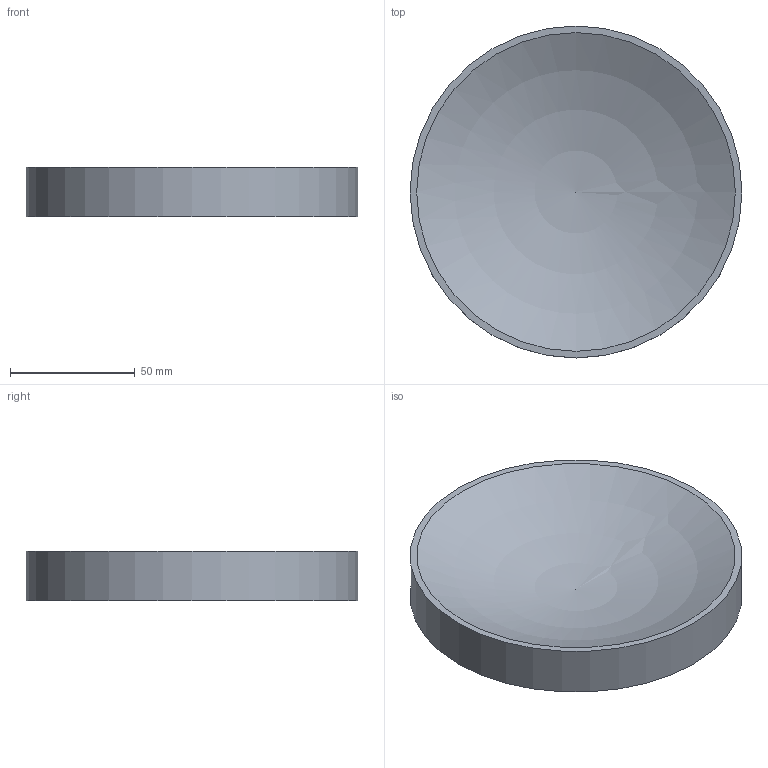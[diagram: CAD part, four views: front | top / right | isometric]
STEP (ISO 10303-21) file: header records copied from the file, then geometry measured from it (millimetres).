
FILE_DESCRIPTION( ( 'Unknown' ), '1' );
FILE_NAME( 'C:/Users/Lee/Documents/HGC Work/Solid Edge/heavy_gas_cherenkov_v5/step/quartz_adapter.stp', 'Unknown', ( 'Unknown' ), ( 'Unknown' ), 'PSStep 13.0', 'Unknown', ' ' );
FILE_SCHEMA( ( 'AUTOMOTIVE_DESIGN { 1 0 10303 214 1 1 1 1 }' ) );
Length unit declared in the file: millimetre
Products named in the file (1): 1
Bounding box: 133 x 133 x 20 mm (x, y, z)
Volume: 170124.3 mm3; surface area: 36994 mm2
Topology: 1 solids, 1 shells, 4 faces, 6 edges, 4 vertices
Faces by surface type: plane 2, cylinder 1, sphere 1
Full cylindrical faces by diameter (mm): 133 x1
Entity records: 122 total; most frequent: DIRECTION 16, CARTESIAN_POINT 11, AXIS2_PLACEMENT_3D 8, EDGE_LOOP 6, ORIENTED_EDGE 6, FACE_OUTER_BOUND 5, STYLED_ITEM 4, PRESENTATION_STYLE_ASSIGNMENT 4
